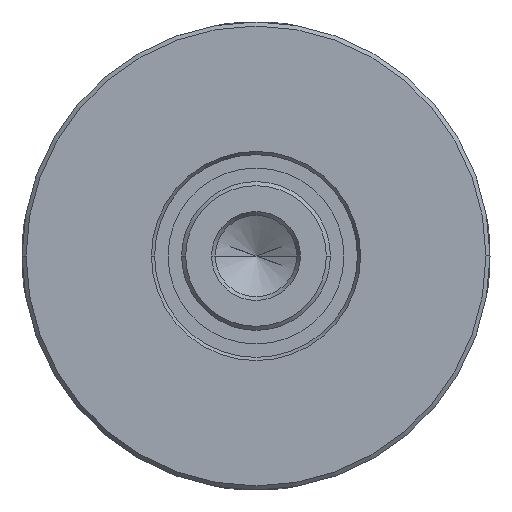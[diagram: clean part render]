
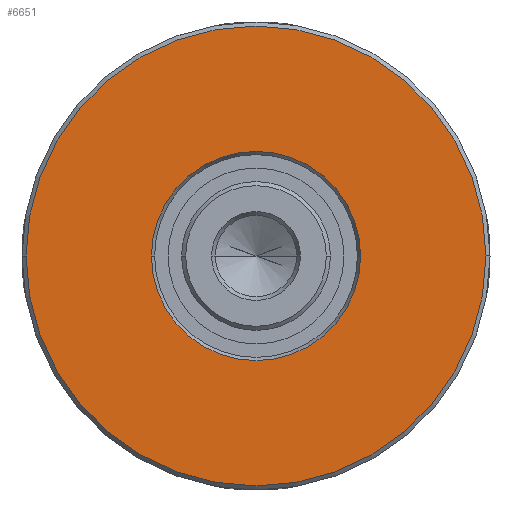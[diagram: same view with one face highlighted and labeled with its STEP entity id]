
A CAD part, left-side view. The second image highlights one B-rep face of the part: STEP entity #6651.
In plain terms, the highlighted planar face has unit normal (-1, 0, 0).
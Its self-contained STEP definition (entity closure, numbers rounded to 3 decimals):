
#6304=CARTESIAN_POINT('',(-2.,0.,
0.));
#6305=DIRECTION('',(1.,0.,0.));
#6306=DIRECTION('',(0.,-1.,0.));
#6307=AXIS2_PLACEMENT_3D('',#6304,#6305,#6306);
#6312=CARTESIAN_POINT('',(-2.,0.,
0.));
#6313=DIRECTION('',(1.,0.,0.));
#6314=DIRECTION('',(0.,1.,0.));
#6315=AXIS2_PLACEMENT_3D('',#6312,#6313,#6314);
#6320=CARTESIAN_POINT('',(-2.,0.,0.));
#6321=DIRECTION('',(1.,0.,0.));
#6322=DIRECTION('',(0.,1.,0.));
#6323=AXIS2_PLACEMENT_3D('',#6320,#6321,#6322);
#6342=CARTESIAN_POINT('',(-2.,0.,0.));
#6343=DIRECTION('',(-1.,0.,0.));
#6344=DIRECTION('',(0.,1.,0.));
#6345=AXIS2_PLACEMENT_3D('',#6342,#6343,#6344);
#6466=CARTESIAN_POINT('',(-2.,7.731,0.));
#6467=VERTEX_POINT('',#6466);
#6468=CARTESIAN_POINT('',(-2.,-7.731,0.));
#6469=VERTEX_POINT('',#6468);
#6470=CARTESIAN_POINT('',(-2.,-17.,0.));
#6471=CARTESIAN_POINT('',(-2.,17.,0.));
#6472=VERTEX_POINT('',#6470);
#6473=VERTEX_POINT('',#6471);
#6636=CARTESIAN_POINT('',(-2.,0.,0.));
#6637=DIRECTION('',(1.,0.,0.));
#6638=DIRECTION('',(0.,-1.,0.));
#6639=AXIS2_PLACEMENT_3D('',#6636,#6637,#6638);
#6640=PLANE('',#6639);
#6641=ORIENTED_EDGE('',*,*,#6616,.T.);
#6642=ORIENTED_EDGE('',*,*,#6630,.T.);
#6643=EDGE_LOOP('',(#6641,#6642));
#6644=FACE_OUTER_BOUND('',#6643,.F.);
#6646=ORIENTED_EDGE('',*,*,#6645,.F.);
#6648=ORIENTED_EDGE('',*,*,#6647,.T.);
#6649=EDGE_LOOP('',(#6646,#6648));
#6650=FACE_BOUND('',#6649,.F.);
#6308=CIRCLE('',#6307,17.);
#6316=CIRCLE('',#6315,17.);
#6324=CIRCLE('',#6323,7.731);
#6346=CIRCLE('',#6345,7.731);
#6616=EDGE_CURVE('',#6472,#6473,#6308,.T.);
#6630=EDGE_CURVE('',#6473,#6472,#6316,.T.);
#6645=EDGE_CURVE('',#6467,#6469,#6324,.T.);
#6647=EDGE_CURVE('',#6467,#6469,#6346,.T.);
#6651=ADVANCED_FACE('',(#6644,#6650),#6640,.F.);
